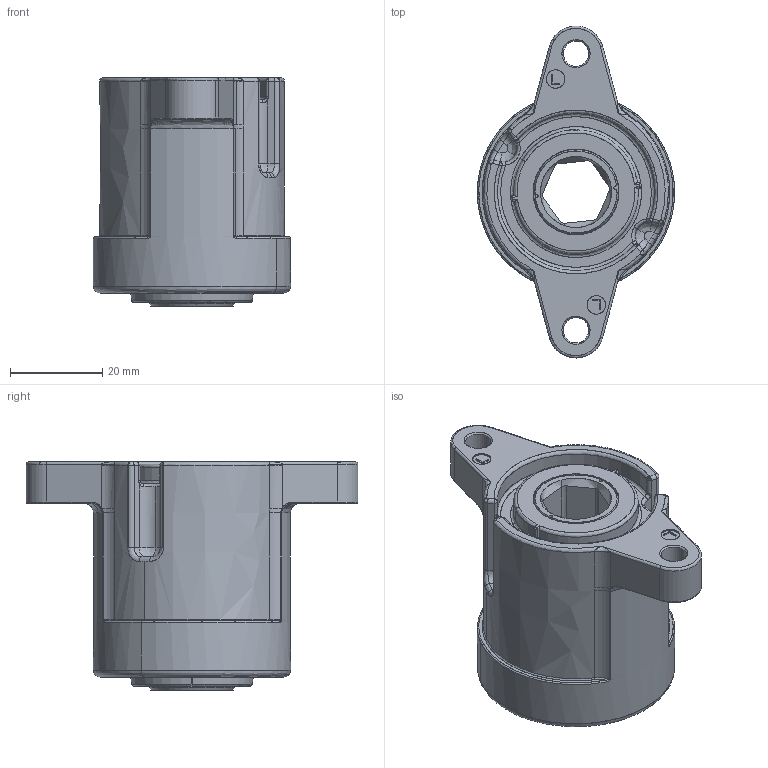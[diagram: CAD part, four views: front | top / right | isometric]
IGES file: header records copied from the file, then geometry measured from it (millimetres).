
Start section: SolidWorks IGES file using analytic representation for surfaces
Global section: file name: T:\共有\電子カタログ\180531 カタログデータ\FYN-X2-L254_3D_MODEL.IGS; native system: SolidWorks 2018; preprocessor: SolidWorks 2018; author: flgijutsu; date: 180531.134130; units: millimetre
Bounding box: 42.8 x 72 x 49.5 mm (x, y, z)
Surface area: 14008.3 mm2 (no closed solid volume)
Topology: 0 solids, 0 shells, 292 faces, 2672 edges, 2662 vertices
Faces by surface type: bspline 164, revolution 128
